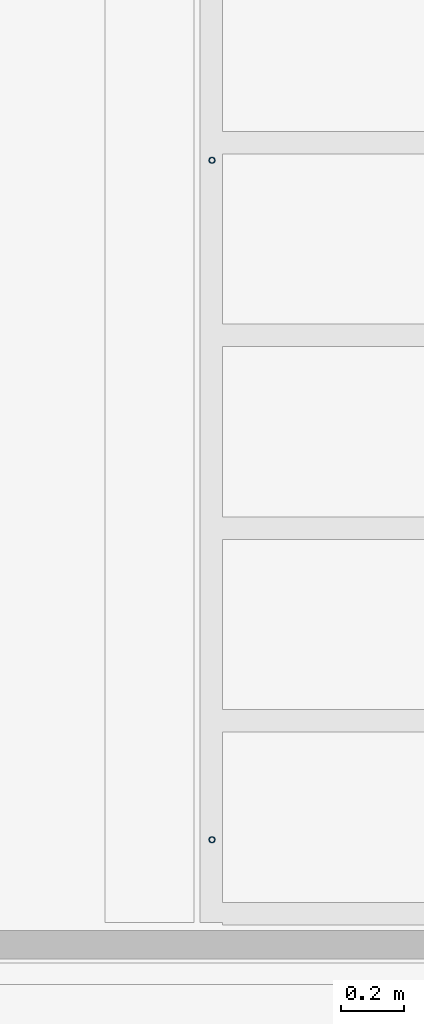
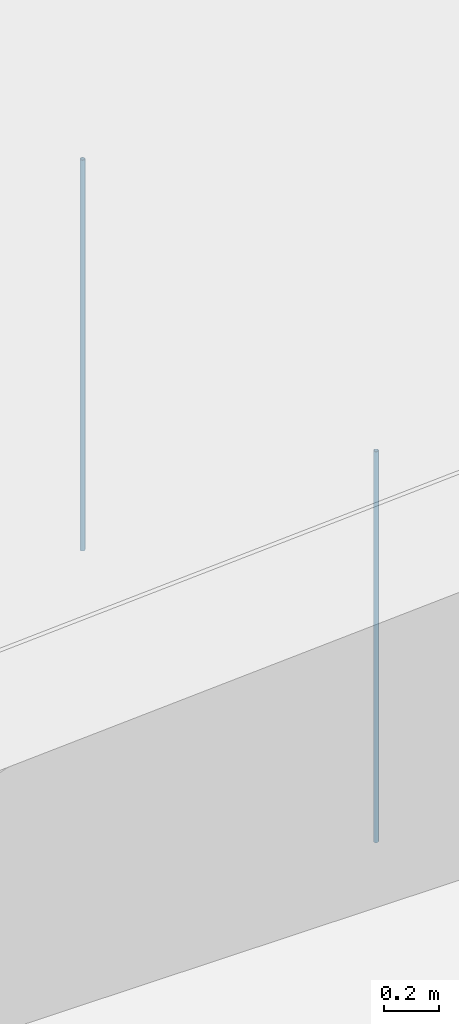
# One storey, part 1 of 66: 2 columns.
"""IFC2X3 building model written with IfcOpenShell, lengths in millimetres."""

from ifc_helpers import new_model, entity, si_unit, converted_unit, derived_unit, direction, frame, frame_2d, origin, place, context, subcontext, project, spatial, hollow_circle, extrude, source, transform, mapped, material, type_object, type_shapes, element, save


model = new_model("IFC2X3")

# Units and contexts
model_context = context("Model", 3, precision=0.01, world=origin(), true_north=direction((6.12303176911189e-17, 1.0)))
body_context = subcontext(model_context, "Body", "Model", "MODEL_VIEW")
ifc_project = project(units=[si_unit("LENGTHUNIT", "METRE", prefix="MILLI"), si_unit("AREAUNIT", "SQUARE_METRE"), si_unit("VOLUMEUNIT", "CUBIC_METRE"), converted_unit("PLANEANGLEUNIT", "DEGREE", entity("IfcRatioMeasure", 0.0174532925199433), si_unit("PLANEANGLEUNIT", "RADIAN"), dimensions=[0, 0, 0, 0, 0, 0, 0]), si_unit("MASSUNIT", "GRAM", prefix="KILO"), derived_unit("MASSDENSITYUNIT", [(si_unit("MASSUNIT", "GRAM", prefix="KILO"), 1), (si_unit("LENGTHUNIT", "METRE"), -3)]), derived_unit("MOMENTOFINERTIAUNIT", [(si_unit("LENGTHUNIT", "METRE"), 4)]), si_unit("TIMEUNIT", "SECOND"), si_unit("FREQUENCYUNIT", "HERTZ"), si_unit("THERMODYNAMICTEMPERATUREUNIT", "DEGREE_CELSIUS"), derived_unit("THERMALTRANSMITTANCEUNIT", [(si_unit("MASSUNIT", "GRAM", prefix="KILO"), 1), (si_unit("THERMODYNAMICTEMPERATUREUNIT", "KELVIN"), -1), (si_unit("TIMEUNIT", "SECOND"), -3)]), derived_unit("VOLUMETRICFLOWRATEUNIT", [(si_unit("LENGTHUNIT", "METRE"), 3), (si_unit("TIMEUNIT", "SECOND"), -1)]), si_unit("ELECTRICCURRENTUNIT", "AMPERE"), si_unit("ELECTRICVOLTAGEUNIT", "VOLT"), si_unit("POWERUNIT", "WATT"), si_unit("FORCEUNIT", "NEWTON", prefix="KILO"), si_unit("ILLUMINANCEUNIT", "LUX"), si_unit("LUMINOUSFLUXUNIT", "LUMEN"), si_unit("LUMINOUSINTENSITYUNIT", "CANDELA"), derived_unit("USERDEFINED", [(si_unit("MASSUNIT", "GRAM", prefix="KILO"), -1), (si_unit("LENGTHUNIT", "METRE"), -2), (si_unit("TIMEUNIT", "SECOND"), 3), (si_unit("LUMINOUSFLUXUNIT", "LUMEN"), 1)]), derived_unit("LINEARVELOCITYUNIT", [(si_unit("LENGTHUNIT", "METRE"), 1), (si_unit("TIMEUNIT", "SECOND"), -1)]), si_unit("PRESSUREUNIT", "PASCAL"), derived_unit("USERDEFINED", [(si_unit("LENGTHUNIT", "METRE"), -2), (si_unit("MASSUNIT", "GRAM", prefix="KILO"), 1), (si_unit("TIMEUNIT", "SECOND"), -2)]), derived_unit("LINEARFORCEUNIT", [(si_unit("MASSUNIT", "GRAM", prefix="KILO"), 1), (si_unit("LENGTHUNIT", "METRE"), 1), (si_unit("TIMEUNIT", "SECOND"), -2), (si_unit("LENGTHUNIT", "METRE"), -1)]), derived_unit("PLANARFORCEUNIT", [(si_unit("MASSUNIT", "GRAM", prefix="KILO"), 1), (si_unit("LENGTHUNIT", "METRE"), 1), (si_unit("TIMEUNIT", "SECOND"), -2), (si_unit("LENGTHUNIT", "METRE"), -2)])], contexts=[model_context])

# Site, building, storey
site_placement = place(None, origin())
site = spatial("IfcSite", under=ifc_project, at=site_placement, Name="Default", CompositionType="ELEMENT")
building_placement = place(site_placement, origin())
building = spatial("IfcBuilding", under=site, at=building_placement, Name="-", CompositionType="ELEMENT")
storey_placement = place(building_placement, frame((0.0, 0.0, 3070.0)))
storey = spatial("IfcBuildingStorey", under=building, at=storey_placement, Name="01 eerste verdieping", CompositionType="ELEMENT", Elevation=3070.00000000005)

# Columns
ifc_material = material(Name="NLRS_h3_staal_verzinkt")
column_type = type_object("IfcColumnType", Name="Buisprofielen_ITX(c):Buis 20x2", PredefinedType="COLUMN", material=ifc_material)
shared_shape = source(origin(), body_context, "Body", "SweptSolid", [
    extrude(hollow_circle(Radius=9.99999999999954, WallThickness=1.99999999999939, at=frame_2d((9.62538790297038e-16, -8.12617701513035e-14), x_axis=(1.0, 0.0))), frame((0.0, 0.0, 3052.0)), (0.0, 0.0, 1.0), 1748.0),
])
type_shapes(column_type, [shared_shape])
for number, where in (
    (1, (6128.47441443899, 28318.1446885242, -3070.0)),
    (2, (6128.47441443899, 30468.1446885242, -3070.0)),
):
    element("IfcColumn", number, at=place(storey_placement, frame(where)), inside=storey, type_object=column_type, material=ifc_material, Name="Buisprofielen_ITX(c):Buis 20x2", ObjectType="Buisprofielen_ITX(c):Buis 20x2", context=body_context, shape_type="MappedRepresentation", body=[
        mapped(shared_shape, transform((0.0, 0.0, 0.0), scale=1.0)),
    ])

save(model, "model.ifc")
